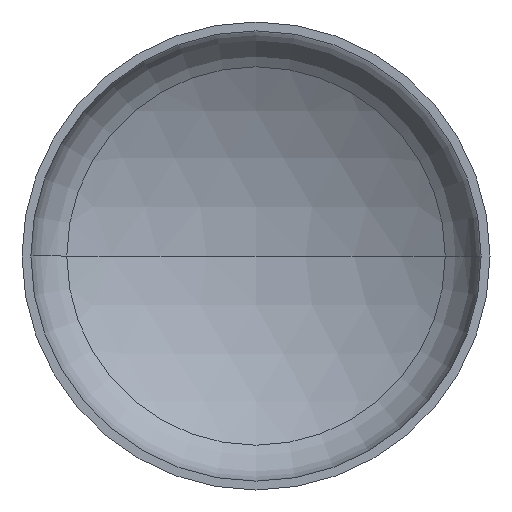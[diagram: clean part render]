
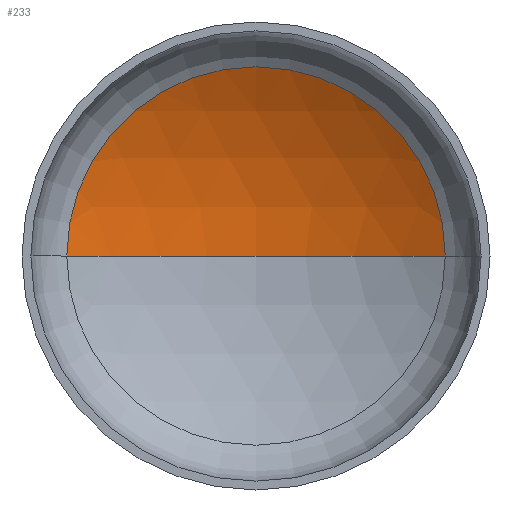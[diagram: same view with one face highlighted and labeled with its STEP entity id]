
A CAD part, front view. The second image highlights one B-rep face of the part: STEP entity #233.
In plain terms, the highlighted spherical face has radius 1600 mm.
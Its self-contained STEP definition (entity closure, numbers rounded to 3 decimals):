
#30 = AXIS2_PLACEMENT_3D ( 'NONE', #307, #376, #332 ) ;
#38 = AXIS2_PLACEMENT_3D ( 'NONE', #234, #400, #262 ) ;
#41 = VERTEX_POINT ( 'NONE', #296 ) ;
#42 = AXIS2_PLACEMENT_3D ( 'NONE', #279, #101, #305 ) ;
#50 = AXIS2_PLACEMENT_3D ( 'NONE', #181, #351, #212 ) ;
#58 = VERTEX_POINT ( 'NONE', #292 ) ;
#92 = ORIENTED_EDGE ( 'NONE', *, *, #169, .T. ) ;
#101 = DIRECTION ( 'NONE',  ( 0., 0., -1. ) ) ;
#102 = ORIENTED_EDGE ( 'NONE', *, *, #189, .F. ) ;
#105 = VERTEX_POINT ( 'NONE', #271 ) ;
#119 = EDGE_LOOP ( 'NONE', ( #102, #142, #92 ) ) ;
#142 = ORIENTED_EDGE ( 'NONE', *, *, #180, .T. ) ;
#169 = EDGE_CURVE ( 'NONE', #105, #58, #176, .T. ) ;
#176 = CIRCLE ( 'NONE', #50, 808.682 ) ;
#180 = EDGE_CURVE ( 'NONE', #41, #105, #364, .T. ) ;
#181 = CARTESIAN_POINT ( 'NONE',  ( 0., 387.49, 0. ) ) ;
#189 = EDGE_CURVE ( 'NONE', #41, #58, #228, .T. ) ;
#212 = DIRECTION ( 'NONE',  ( 1., 0., 0. ) ) ;
#228 = CIRCLE ( 'NONE', #38, 1600. ) ;
#233 = ADVANCED_FACE ( 'NONE', ( #291 ), #346, .F. ) ;
#234 = CARTESIAN_POINT ( 'NONE',  ( 0., -993.102, 0. ) ) ;
#262 = DIRECTION ( 'NONE',  ( 1., 0., 0. ) ) ;
#271 = CARTESIAN_POINT ( 'NONE',  ( 808.682, 387.49, 0. ) ) ;
#279 = CARTESIAN_POINT ( 'NONE',  ( 0., -993.102, 0. ) ) ;
#291 = FACE_OUTER_BOUND ( 'NONE', #119, .T. ) ;
#292 = CARTESIAN_POINT ( 'NONE',  ( -808.682, 387.49, 0. ) ) ;
#296 = CARTESIAN_POINT ( 'NONE',  ( 0., 606.898, 0. ) ) ;
#305 = DIRECTION ( 'NONE',  ( -1., 0., 0. ) ) ;
#307 = CARTESIAN_POINT ( 'NONE',  ( 0., -993.102, 0. ) ) ;
#332 = DIRECTION ( 'NONE',  ( -1., 0., 0. ) ) ;
#346 = SPHERICAL_SURFACE ( 'NONE', #30, 1600. ) ;
#351 = DIRECTION ( 'NONE',  ( 0., -1., 0. ) ) ;
#364 = CIRCLE ( 'NONE', #42, 1600. ) ;
#376 = DIRECTION ( 'NONE',  ( 0., 0., -1. ) ) ;
#400 = DIRECTION ( 'NONE',  ( 0., 0., 1. ) ) ;
